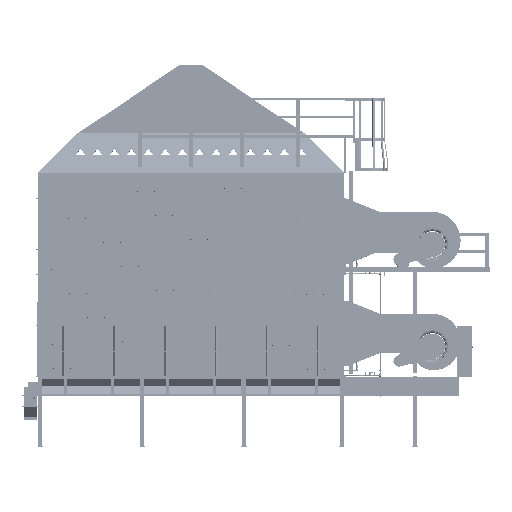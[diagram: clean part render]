
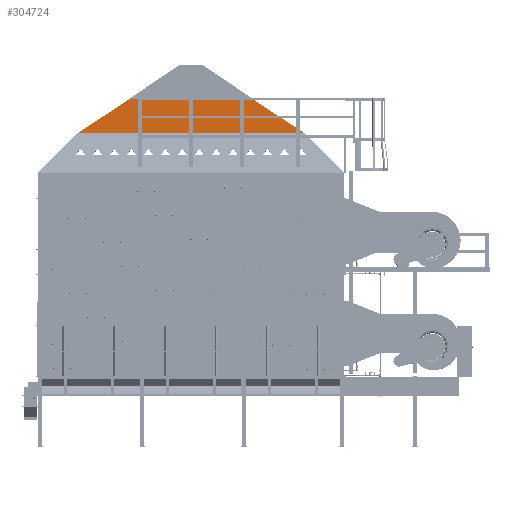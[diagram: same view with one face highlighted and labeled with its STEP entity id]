
A CAD part, top view. The second image highlights one B-rep face of the part: STEP entity #304724.
In plain terms, the highlighted planar face has unit normal (0, 0, 1) as drawn and (0, -1, 0) by its records, which use the part's own axes.
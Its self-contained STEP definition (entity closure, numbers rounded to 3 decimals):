
#45818=FACE_OUTER_BOUND('',#63238,.T.);
#63238=EDGE_LOOP('',(#209121,#209122,#209123,#209124));
#83429=LINE('',#433877,#108655);
#83434=LINE('',#433888,#108660);
#83437=LINE('',#433894,#108663);
#83440=LINE('',#433899,#108666);
#108655=VECTOR('',#353111,0.394);
#108660=VECTOR('',#353126,0.394);
#108663=VECTOR('',#353131,0.394);
#108666=VECTOR('',#353136,0.394);
#133465=VERTEX_POINT('',#433870);
#133468=VERTEX_POINT('',#433875);
#133469=VERTEX_POINT('',#433887);
#133471=VERTEX_POINT('',#433893);
#162737=EDGE_CURVE('',#133465,#133468,#83429,.T.);
#162742=EDGE_CURVE('',#133468,#133469,#83434,.T.);
#162745=EDGE_CURVE('',#133471,#133465,#83437,.T.);
#162748=EDGE_CURVE('',#133471,#133469,#83440,.T.);
#209121=ORIENTED_EDGE('',*,*,#162742,.T.);
#209122=ORIENTED_EDGE('',*,*,#162748,.F.);
#209123=ORIENTED_EDGE('',*,*,#162745,.T.);
#209124=ORIENTED_EDGE('',*,*,#162737,.T.);
#296681=PLANE('',#323766);
#304724=ADVANCED_FACE('',(#45818),#296681,.T.);
#323766=AXIS2_PLACEMENT_3D('',#433898,#353134,#353135);
#353111=DIRECTION('',(-1.,0.,0.));
#353126=DIRECTION('',(-0.833,0.,-0.553));
#353131=DIRECTION('',(-0.833,0.,0.553));
#353134=DIRECTION('center_axis',(0.,-1.,0.));
#353135=DIRECTION('ref_axis',(0.,0.,-1.));
#353136=DIRECTION('',(-1.,0.,0.));
#433870=CARTESIAN_POINT('',(58.625,-6.,68.042));
#433875=CARTESIAN_POINT('',(-58.625,-6.,68.042));
#433877=CARTESIAN_POINT('',(-106.75,-6.,68.042));
#433887=CARTESIAN_POINT('',(-106.75,-6.,36.079));
#433888=CARTESIAN_POINT('',(-8.613,-6.,101.258));
#433893=CARTESIAN_POINT('',(106.75,-6.,36.079));
#433894=CARTESIAN_POINT('',(106.75,-6.,36.079));
#433898=CARTESIAN_POINT('Origin',(106.75,-6.,36.079));
#433899=CARTESIAN_POINT('',(53.375,-6.,36.079));
